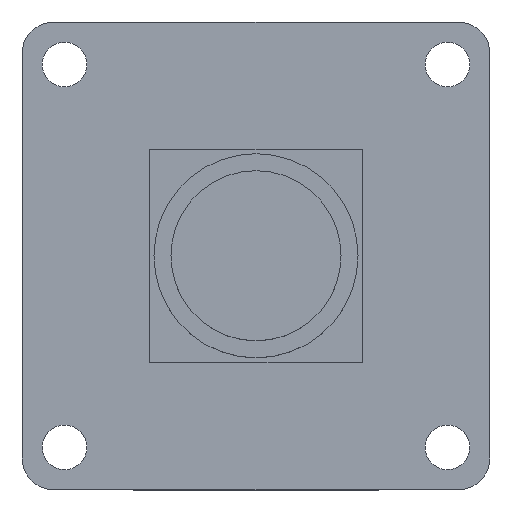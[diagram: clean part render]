
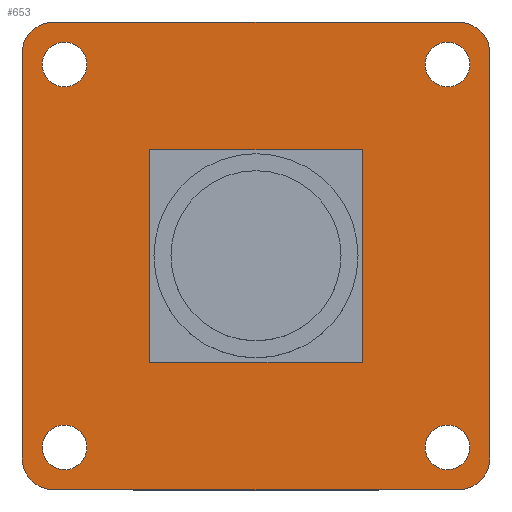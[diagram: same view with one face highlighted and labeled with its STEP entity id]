
A CAD part, top view. The second image highlights one B-rep face of the part: STEP entity #653.
In plain terms, the highlighted planar face has unit normal (0, 0, 1).
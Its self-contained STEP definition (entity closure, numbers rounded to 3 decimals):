
#244 = VERTEX_POINT('',#245);
#245 = CARTESIAN_POINT('',(52.,53.5,0.798));
#251 = EDGE_CURVE('',#244,#252,#254,.T.);
#252 = VERTEX_POINT('',#253);
#253 = CARTESIAN_POINT('',(53.5,52.,0.798));
#254 = CIRCLE('',#255,1.499);
#255 = AXIS2_PLACEMENT_3D('',#256,#257,#258);
#256 = CARTESIAN_POINT('',(53.499,53.499,0.798));
#257 = DIRECTION('',(0.,0.,1.));
#258 = DIRECTION('',(-1.,0.001,0.));
#284 = EDGE_CURVE('',#252,#285,#287,.T.);
#285 = VERTEX_POINT('',#286);
#286 = CARTESIAN_POINT('',(72.5,52.,0.798));
#287 = LINE('',#288,#289);
#288 = CARTESIAN_POINT('',(53.5,52.,0.798));
#289 = VECTOR('',#290,1.);
#290 = DIRECTION('',(1.,0.,0.));
#315 = EDGE_CURVE('',#285,#316,#318,.T.);
#316 = VERTEX_POINT('',#317);
#317 = CARTESIAN_POINT('',(74.,53.5,0.798));
#318 = CIRCLE('',#319,1.499);
#319 = AXIS2_PLACEMENT_3D('',#320,#321,#322);
#320 = CARTESIAN_POINT('',(72.501,53.499,0.798));
#321 = DIRECTION('',(0.,0.,1.));
#322 = DIRECTION('',(-0.001,-1.,0.));
#348 = EDGE_CURVE('',#316,#349,#351,.T.);
#349 = VERTEX_POINT('',#350);
#350 = CARTESIAN_POINT('',(74.,72.5,0.798));
#351 = LINE('',#352,#353);
#352 = CARTESIAN_POINT('',(74.,53.5,0.798));
#353 = VECTOR('',#354,1.);
#354 = DIRECTION('',(0.,1.,0.));
#379 = EDGE_CURVE('',#349,#380,#382,.T.);
#380 = VERTEX_POINT('',#381);
#381 = CARTESIAN_POINT('',(72.5,74.,0.798));
#382 = CIRCLE('',#383,1.499);
#383 = AXIS2_PLACEMENT_3D('',#384,#385,#386);
#384 = CARTESIAN_POINT('',(72.501,72.501,0.798));
#385 = DIRECTION('',(0.,0.,1.));
#386 = DIRECTION('',(1.,-0.001,0.));
#412 = EDGE_CURVE('',#380,#413,#415,.T.);
#413 = VERTEX_POINT('',#414);
#414 = CARTESIAN_POINT('',(53.5,74.,0.798));
#415 = LINE('',#416,#417);
#416 = CARTESIAN_POINT('',(72.5,74.,0.798));
#417 = VECTOR('',#418,1.);
#418 = DIRECTION('',(-1.,0.,0.));
#443 = EDGE_CURVE('',#413,#444,#446,.T.);
#444 = VERTEX_POINT('',#445);
#445 = CARTESIAN_POINT('',(52.,72.5,0.798));
#446 = CIRCLE('',#447,1.499);
#447 = AXIS2_PLACEMENT_3D('',#448,#449,#450);
#448 = CARTESIAN_POINT('',(53.499,72.501,0.798));
#449 = DIRECTION('',(0.,0.,1.));
#450 = DIRECTION('',(0.001,1.,-0.));
#476 = EDGE_CURVE('',#444,#244,#477,.T.);
#477 = LINE('',#478,#479);
#478 = CARTESIAN_POINT('',(52.,72.5,0.798));
#479 = VECTOR('',#480,1.);
#480 = DIRECTION('',(0.,-1.,0.));
#500 = VERTEX_POINT('',#501);
#501 = CARTESIAN_POINT('',(55.05,54.,0.798));
#507 = EDGE_CURVE('',#500,#500,#508,.T.);
#508 = CIRCLE('',#509,1.05);
#509 = AXIS2_PLACEMENT_3D('',#510,#511,#512);
#510 = CARTESIAN_POINT('',(54.,54.,0.798));
#511 = DIRECTION('',(0.,0.,1.));
#512 = DIRECTION('',(1.,0.,-0.));
#533 = VERTEX_POINT('',#534);
#534 = CARTESIAN_POINT('',(55.05,72.,0.798));
#540 = EDGE_CURVE('',#533,#533,#541,.T.);
#541 = CIRCLE('',#542,1.05);
#542 = AXIS2_PLACEMENT_3D('',#543,#544,#545);
#543 = CARTESIAN_POINT('',(54.,72.,0.798));
#544 = DIRECTION('',(0.,0.,1.));
#545 = DIRECTION('',(1.,0.,-0.));
#566 = VERTEX_POINT('',#567);
#567 = CARTESIAN_POINT('',(73.05,54.,0.798));
#573 = EDGE_CURVE('',#566,#566,#574,.T.);
#574 = CIRCLE('',#575,1.05);
#575 = AXIS2_PLACEMENT_3D('',#576,#577,#578);
#576 = CARTESIAN_POINT('',(72.,54.,0.798));
#577 = DIRECTION('',(0.,0.,1.));
#578 = DIRECTION('',(1.,0.,-0.));
#599 = VERTEX_POINT('',#600);
#600 = CARTESIAN_POINT('',(73.05,72.,0.798));
#606 = EDGE_CURVE('',#599,#599,#607,.T.);
#607 = CIRCLE('',#608,1.05);
#608 = AXIS2_PLACEMENT_3D('',#609,#610,#611);
#609 = CARTESIAN_POINT('',(72.,72.,0.798));
#610 = DIRECTION('',(0.,0.,1.));
#611 = DIRECTION('',(1.,0.,-0.));
#653 = ADVANCED_FACE('',(#654,#664,#667,#670,#673),#676,.T.);
#654 = FACE_BOUND('',#655,.T.);
#655 = EDGE_LOOP('',(#656,#657,#658,#659,#660,#661,#662,#663));
#656 = ORIENTED_EDGE('',*,*,#251,.T.);
#657 = ORIENTED_EDGE('',*,*,#284,.T.);
#658 = ORIENTED_EDGE('',*,*,#315,.T.);
#659 = ORIENTED_EDGE('',*,*,#348,.T.);
#660 = ORIENTED_EDGE('',*,*,#379,.T.);
#661 = ORIENTED_EDGE('',*,*,#412,.T.);
#662 = ORIENTED_EDGE('',*,*,#443,.T.);
#663 = ORIENTED_EDGE('',*,*,#476,.T.);
#664 = FACE_BOUND('',#665,.T.);
#665 = EDGE_LOOP('',(#666));
#666 = ORIENTED_EDGE('',*,*,#507,.F.);
#667 = FACE_BOUND('',#668,.T.);
#668 = EDGE_LOOP('',(#669));
#669 = ORIENTED_EDGE('',*,*,#540,.F.);
#670 = FACE_BOUND('',#671,.T.);
#671 = EDGE_LOOP('',(#672));
#672 = ORIENTED_EDGE('',*,*,#573,.F.);
#673 = FACE_BOUND('',#674,.T.);
#674 = EDGE_LOOP('',(#675));
#675 = ORIENTED_EDGE('',*,*,#606,.F.);
#676 = PLANE('',#677);
#677 = AXIS2_PLACEMENT_3D('',#678,#679,#680);
#678 = CARTESIAN_POINT('',(63.,63.,0.798));
#679 = DIRECTION('',(0.,0.,1.));
#680 = DIRECTION('',(1.,0.,-0.));
